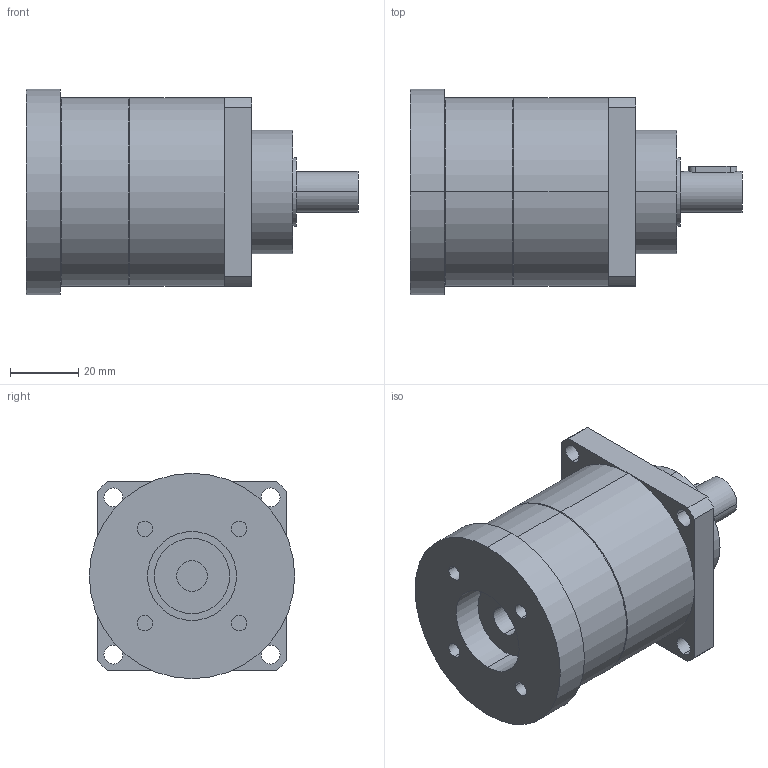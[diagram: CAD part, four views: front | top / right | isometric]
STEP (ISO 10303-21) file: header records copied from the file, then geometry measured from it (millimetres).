
FILE_DESCRIPTION(('CoCreate Modeling STEP Export'),'2;1');
FILE_NAME('GPT55_ig-3-4-5-7-10_12_B5A_9_P10.stp','2014-08-25T14:35:45',(''),(''),'CoCreate Modeling STEP processor for AP214 (Solid Model)','CoCreate Modeling 16.00C 25-Feb-2009 (C) Parametric Technology GmbH','');
FILE_SCHEMA(('AUTOMOTIVE_DESIGN { 1 0 10303 214 1 1 1 1 }'));
Length unit declared in the file: millimetre
Products named in the file (2): GPT55_ig-3-4-5-7-10_12_B5A_9_P10
Assembly tree (1 placements, depth 2):
  GPT55_ig-3-4-5-7-10_12_B5A_9_P10
    GPT55_ig-3-4-5-7-10_12_B5A_9_P10
Bounding box: 97 x 60 x 60 mm (x, y, z)
Volume: 173876.9 mm3; surface area: 23840.6 mm2
Topology: 1 solids, 1 shells, 72 faces, 180 edges, 123 vertices
Faces by surface type: cylinder 42, plane 26, cone 4
Entity records: 2237 total; most frequent: CARTESIAN_POINT 661, ORIENTED_EDGE 360, DIRECTION 268, EDGE_CURVE 180, VERTEX_POINT 123, AXIS2_PLACEMENT_3D 100, EDGE_LOOP 93, FACE_OUTER_BOUND 72
